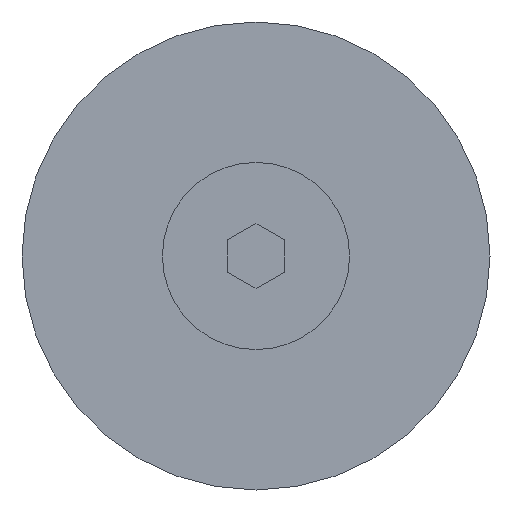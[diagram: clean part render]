
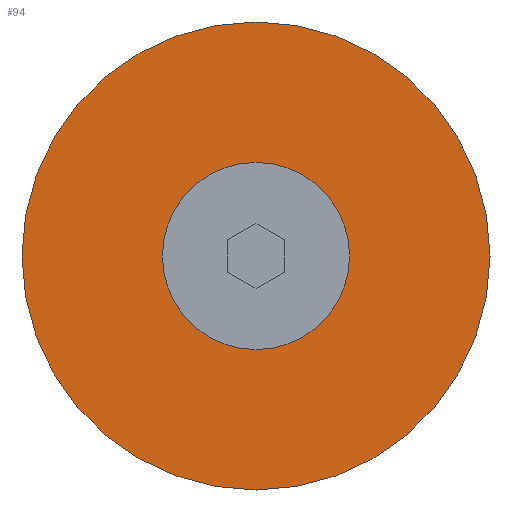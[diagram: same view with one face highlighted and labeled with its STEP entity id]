
A CAD part, front view. The second image highlights one B-rep face of the part: STEP entity #94.
In plain terms, the highlighted planar face has unit normal (0, -1, 0).
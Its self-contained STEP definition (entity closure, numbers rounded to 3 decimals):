
#94=ADVANCED_FACE('',(#160,#161),#162,.F.);
#160=FACE_OUTER_BOUND('',#253,.T.);
#161=FACE_BOUND('',#254,.T.);
#162=PLANE('',#255);
#253=EDGE_LOOP('',(#450,#451));
#254=EDGE_LOOP('',(#452,#453));
#255=AXIS2_PLACEMENT_3D('',#454,#455,#456);
#450=ORIENTED_EDGE('',*,*,#645,.T.);
#451=ORIENTED_EDGE('',*,*,#690,.T.);
#452=ORIENTED_EDGE('',*,*,#647,.F.);
#453=ORIENTED_EDGE('',*,*,#689,.F.);
#454=CARTESIAN_POINT('',(-12.5,-7.0,0.0));
#455=DIRECTION('',(0.0,1.0,0.0));
#456=DIRECTION('',(1.0,0.0,-0.0));
#645=EDGE_CURVE('',#758,#756,#759,.T.);
#647=EDGE_CURVE('',#761,#762,#763,.T.);
#689=EDGE_CURVE('',#762,#761,#835,.T.);
#690=EDGE_CURVE('',#756,#758,#836,.T.);
#756=VERTEX_POINT('',#924);
#758=VERTEX_POINT('',#927);
#759=CIRCLE('',#928,12.5);
#761=VERTEX_POINT('',#931);
#762=VERTEX_POINT('',#932);
#763=CIRCLE('',#933,5.0);
#835=CIRCLE('',#1039,5.0);
#836=CIRCLE('',#1040,12.5);
#924=CARTESIAN_POINT('',(0.,-7.0,12.5));
#927=CARTESIAN_POINT('',(0.,-7.0,-12.5));
#928=AXIS2_PLACEMENT_3D('',#1143,#1144,#1145);
#931=CARTESIAN_POINT('',(0.,-7.0,-5.0));
#932=CARTESIAN_POINT('',(0.,-7.0,5.0));
#933=AXIS2_PLACEMENT_3D('',#1147,#1148,#1149);
#1039=AXIS2_PLACEMENT_3D('',#1205,#1206,#1207);
#1040=AXIS2_PLACEMENT_3D('',#1208,#1209,#1210);
#1143=CARTESIAN_POINT('',(0.,-7.0,0.0));
#1144=DIRECTION('',(0.0,-1.0,0.0));
#1145=DIRECTION('',(0.0,0.0,-1.0));
#1147=CARTESIAN_POINT('',(0.,-7.0,0.0));
#1148=DIRECTION('',(0.0,-1.0,0.0));
#1149=DIRECTION('',(0.0,0.0,-1.0));
#1205=CARTESIAN_POINT('',(0.,-7.0,0.0));
#1206=DIRECTION('',(0.0,-1.0,0.0));
#1207=DIRECTION('',(0.0,0.0,-1.0));
#1208=CARTESIAN_POINT('',(0.,-7.0,0.0));
#1209=DIRECTION('',(0.0,-1.0,0.0));
#1210=DIRECTION('',(0.0,0.0,-1.0));
